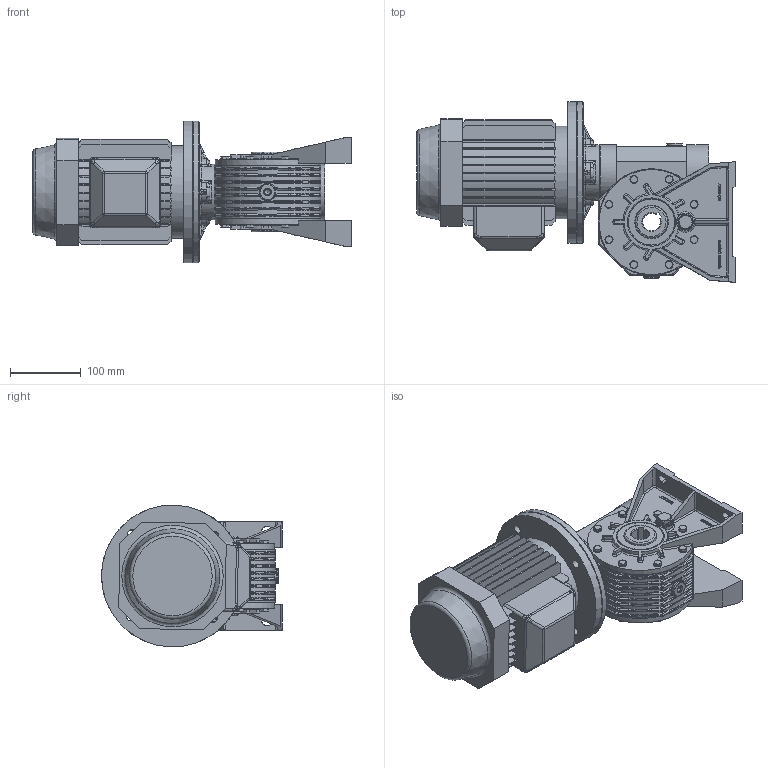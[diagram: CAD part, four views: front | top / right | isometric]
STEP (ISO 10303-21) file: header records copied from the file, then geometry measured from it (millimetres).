
FILE_DESCRIPTION((''),'2;1');
FILE_NAME('Y:\Archivi Inventor\Prog_01\GRAND_30\Figurini\MRV30 sito\80\MRV30_P3_80_B5.stp','2013-02-06T09:57:17',('tech3'),(''),'Autodesk Inventor 2013','Autodesk Inventor 2013','');
FILE_SCHEMA(('AUTOMOTIVE_DESIGN { 1 0 10303 214 1 1 1 1 }'));
Length unit declared in the file: millimetre
Products named in the file (16): MRV30_80_B5; MRV30; 0103001-A2 fig; 0103008.A1 fig F=25; PARAOLIO 45x65x10; RCA_52x7; Guarnizione 3_8 GAS; Tappo 3_8 GAS_esagn_incsst; 0103010-A0 fig; 0103029; DIN EN 24017 M6 x 20; Tappo3_8 GAS; 0103028; UNI 5931 M 8 x  25; 0103006; motori B5 80
Assembly tree (41 placements, depth 3):
  MRV30_80_B5
    MRV30
      0103001-A2 fig
      0103008.A1 fig F=25
      PARAOLIO 45x65x10  x2
      RCA_52x7
      Guarnizione 3_8 GAS  x4
      Tappo 3_8 GAS_esagn_incsst  x2
      0103010-A0 fig  x2
      0103029  x2
      DIN EN 24017 M6 x 20  x16
      Tappo3_8 GAS  x2
      0103028
      UNI 5931 M 8 x  25  x4
    0103006
    motori B5 80
Bounding box: 448.9 x 254.99 x 199.97 mm (x, y, z)
Volume: 6123548.8 mm3; surface area: 842070.1 mm2
Topology: 40 solids, 43 shells, 2671 faces, 6682 edges, 4161 vertices
Faces by surface type: plane 1318, cylinder 653, bspline 312, cone 195, torus 161, sphere 32
Full cylindrical faces by diameter (mm): 2 x2, 4.917 x16, 6 x16, 6.5 x32, 6.647 x4, 8 x6, 8.5 x8, 8.88 x16, 11 x16, 12 x4, 13 x4, 13.046 x2, 14.95 x4, 16.3 x4, 16.5 x2, 19 x1, 22 x8, 25 x3, 43 x1, 45 x4, 45.76 x1, 50.881 x2, 52 x6, 55 x1, 60.5 x2, 65 x4, 75 x2, 77 x1, 78 x1, 79 x1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
Entity records: 62991 total; most frequent: CARTESIAN_POINT 20056, ORIENTED_EDGE 8708, DIRECTION 8404, EDGE_CURVE 4354, AXIS2_PLACEMENT_3D 3032, VERTEX_POINT 2827, VECTOR 2340, LINE 2340
